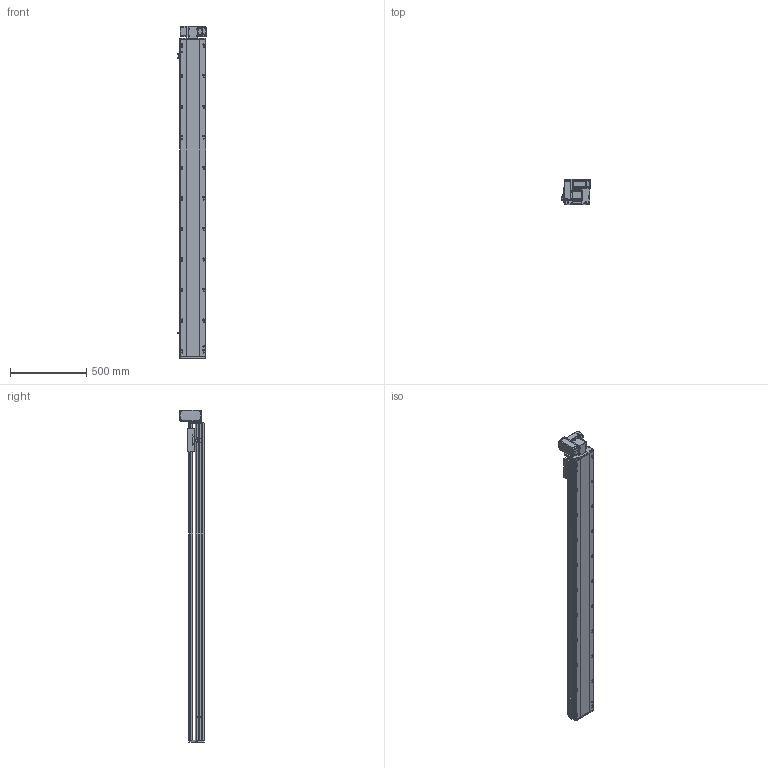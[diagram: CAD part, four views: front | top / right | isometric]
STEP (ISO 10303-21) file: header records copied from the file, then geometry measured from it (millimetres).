
FILE_DESCRIPTION (( 'STEP AP214' ), '1' );
FILE_NAME ('RTB17S-XX-1800-LW-M40-C4.STEP', '2025-12-11T07:11:16', ( '' ), ( '' ), 'SwSTEP 2.0', 'SolidWorks 2018', '' );
FILE_SCHEMA (( 'AUTOMOTIVE_DESIGN' ));
Length unit declared in the file: millimetre
Products named in the file (14): RTH13-BL-012覜茼え俋离^RTB17S-XX-XX-LW-M40-C4; RTB14-L-005P--轴承塑胶压盖^RTB17S-LW-皮带座装配-400W_RTB17S-XX-XX-LW-M40-C4; RTB17S-L-007奻裔^RTB17S-XX-XX-LW-M40-C4; RTB14-L-008-M20--萇儂啣^RTB17S-LW-々湍釱蚾饜-400W_RTB17S-XX-XX-LW-M40-C4; RTB17S-XX-1800-LW-M40-C4; RTB17S-LW-々湍釱蚾饜-400W^RTB17S-XX-XX-LW-M40-C4; RTB14-L-018P^RTB17S-LW-々湍釱蚾饜-400W_RTB17S-XX-XX-LW-M40-C4; RTB17-R-011菁釱^RTB17S-XX-XX-LW-M40-C4; RTB17S-L-001耜醱啣^RTB17S-XX-XX-LW-M40-C4; OMRON EE-SX672 传感器^RTB17S-XX-XX-LW-M40-C4; RTB17S-L-004佪裝蹟譫蟀諉釱^RTB17S-XX-XX-LW-M40-C4; RTB17S-L-014-T20--々湍釱^RTB17S-LW-々湍釱蚾饜-400W_RTB17S-XX-XX-LW-M40-C4; 400W侜督萇儂^RTB17S-XX-XX-LW-M40-C4; RTB14-L-017P^RTB17S-LW-々湍釱蚾饜-400W_RTB17S-XX-XX-LW-M40-C4
Assembly tree (16 placements, depth 3):
  RTB17S-XX-1800-LW-M40-C4
    RTB17-R-011菁釱^RTB17S-XX-XX-LW-M40-C4
    RTB17S-L-007奻裔^RTB17S-XX-XX-LW-M40-C4
    OMRON EE-SX672 传感器^RTB17S-XX-XX-LW-M40-C4  x3
    RTB17S-L-001耜醱啣^RTB17S-XX-XX-LW-M40-C4
    400W侜督萇儂^RTB17S-XX-XX-LW-M40-C4
    RTB17S-L-004佪裝蹟譫蟀諉釱^RTB17S-XX-XX-LW-M40-C4
    RTH13-BL-012覜茼え俋离^RTB17S-XX-XX-LW-M40-C4
    RTB17S-LW-々湍釱蚾饜-400W^RTB17S-XX-XX-LW-M40-C4
      RTB17S-L-014-T20--々湍釱^RTB17S-LW-々湍釱蚾饜-400W_RTB17S-XX-XX-LW-M40-C4
      RTB14-L-005P--轴承塑胶压盖^RTB17S-LW-皮带座装配-400W_RTB17S-XX-XX-LW-M40-C4
      RTB14-L-008-M20--萇儂啣^RTB17S-LW-々湍釱蚾饜-400W_RTB17S-XX-XX-LW-M40-C4
      RTB14-L-017P^RTB17S-LW-々湍釱蚾饜-400W_RTB17S-XX-XX-LW-M40-C4  x2
      RTB14-L-018P^RTB17S-LW-々湍釱蚾饜-400W_RTB17S-XX-XX-LW-M40-C4
Bounding box: 186 x 160.5 x 2172.5 mm (x, y, z)
Volume: 18900911 mm3; surface area: 2208598.6 mm2
Topology: 15 solids, 15 shells, 2269 faces, 6303 edges, 4113 vertices
Faces by surface type: plane 1076, cylinder 745, bspline 301, cone 139, torus 8
Entity records: 65705 total; most frequent: CARTESIAN_POINT 18508, ORIENTED_EDGE 9450, DIRECTION 8756, EDGE_CURVE 4725, VERTEX_POINT 3101, AXIS2_PLACEMENT_3D 3031, VECTOR 2694, LINE 2694
